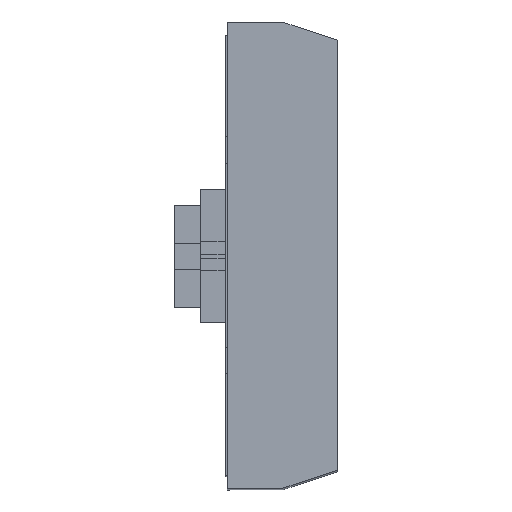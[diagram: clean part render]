
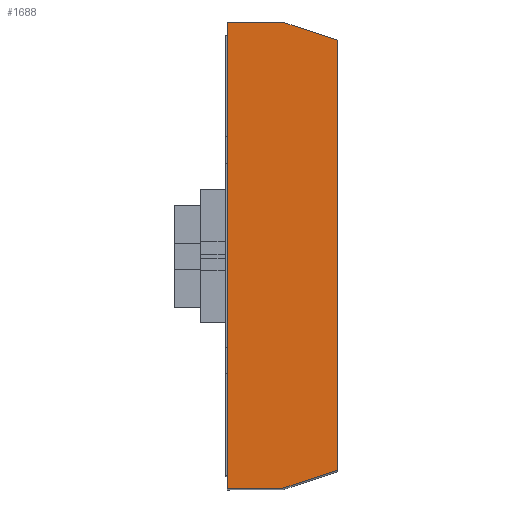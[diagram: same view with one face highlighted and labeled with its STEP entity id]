
A CAD part, top view. The second image highlights one B-rep face of the part: STEP entity #1688.
In plain terms, the highlighted planar face has unit normal (0, 0, 1).
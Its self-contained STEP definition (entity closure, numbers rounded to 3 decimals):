
#1688=ADVANCED_FACE('',(#4625),#4627,.T.);
#4625=FACE_BOUND('',#4626,.T.);
#4626=EDGE_LOOP('',(#7106,#7107,#7108,#7109,#7110,#7111));
#4627=PLANE('',#4628);
#4628=AXIS2_PLACEMENT_3D('',#4629,#4630,#4631);
#4629=CARTESIAN_POINT('',(0.,35.5,73.));
#4630=DIRECTION('',(0.,0.,1.));
#4631=DIRECTION('',(0.,-1.,0.));
#7106=ORIENTED_EDGE('',*,*,#8377,.T.);
#7107=ORIENTED_EDGE('',*,*,#8371,.F.);
#7108=ORIENTED_EDGE('',*,*,#8297,.T.);
#7109=ORIENTED_EDGE('',*,*,#8376,.T.);
#7110=ORIENTED_EDGE('',*,*,#8378,.T.);
#7111=ORIENTED_EDGE('',*,*,#8379,.F.);
#8297=EDGE_CURVE('',#10055,#10059,#10061,.T.);
#8371=EDGE_CURVE('',#10055,#10187,#10191,.T.);
#8376=EDGE_CURVE('',#10059,#10197,#10199,.T.);
#8377=EDGE_CURVE('',#10200,#10187,#10201,.F.);
#8378=EDGE_CURVE('',#10197,#10202,#10203,.F.);
#8379=EDGE_CURVE('',#10200,#10202,#10204,.T.);
#10055=VERTEX_POINT('',#13880);
#10059=VERTEX_POINT('',#13889);
#10061=LINE('',#13893,#13894);
#10187=VERTEX_POINT('',#14163);
#10191=LINE('',#14171,#14172);
#10197=VERTEX_POINT('',#14201);
#10199=LINE('',#14205,#14206);
#10200=VERTEX_POINT('',#14208);
#10201=LINE('',#14209,#14210);
#10202=VERTEX_POINT('',#14212);
#10203=LINE('',#14213,#14214);
#10204=LINE('',#14216,#14217);
#13880=CARTESIAN_POINT('',(0.,35.5,73.));
#13889=CARTESIAN_POINT('',(0.,-35.5,73.));
#13893=CARTESIAN_POINT('',(0.,35.5,73.));
#13894=VECTOR('',#13895,1.);
#13895=DIRECTION('',(0.,-1.,0.));
#14163=CARTESIAN_POINT('',(8.5,35.5,73.));
#14171=CARTESIAN_POINT('',(0.,35.5,73.));
#14172=VECTOR('',#14173,1.);
#14173=DIRECTION('',(1.,0.,0.));
#14201=CARTESIAN_POINT('',(8.5,-35.5,73.));
#14205=CARTESIAN_POINT('',(0.,-35.5,73.));
#14206=VECTOR('',#14207,1.);
#14207=DIRECTION('',(1.,0.,0.));
#14208=CARTESIAN_POINT('',(16.8,32.75,73.));
#14209=CARTESIAN_POINT('',(8.5,35.5,73.));
#14210=VECTOR('',#14211,1.);
#14211=DIRECTION('',(0.949,-0.315,0.));
#14212=CARTESIAN_POINT('',(16.8,-32.75,73.));
#14213=CARTESIAN_POINT('',(16.8,-32.75,73.));
#14214=VECTOR('',#14215,1.);
#14215=DIRECTION('',(-0.949,-0.315,0.));
#14216=CARTESIAN_POINT('',(16.8,32.75,73.));
#14217=VECTOR('',#14218,1.);
#14218=DIRECTION('',(0.,-1.,0.));
